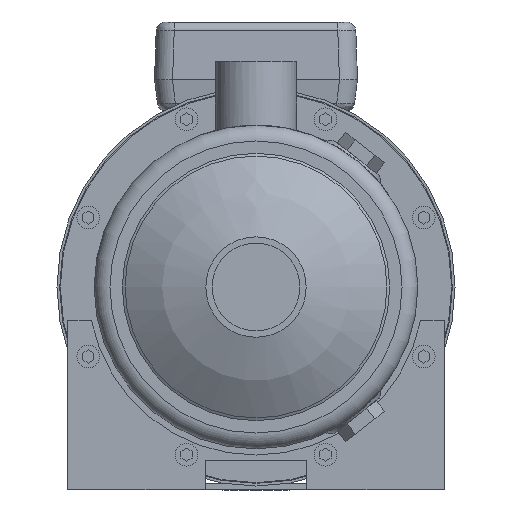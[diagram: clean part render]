
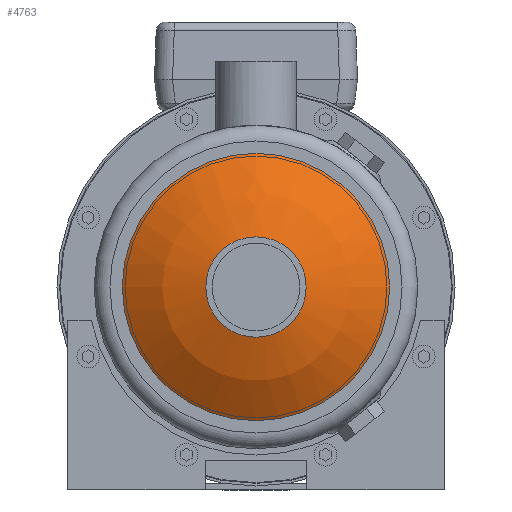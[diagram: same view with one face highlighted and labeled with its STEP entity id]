
A CAD part, left-side view. The second image highlights one B-rep face of the part: STEP entity #4763.
In plain terms, the highlighted spherical face has radius 100 mm.
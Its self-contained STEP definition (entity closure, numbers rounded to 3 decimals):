
#83=SPHERICAL_SURFACE('',#6416,100.);
#1088=ORIENTED_EDGE('',*,*,#2403,.T.);
#1089=ORIENTED_EDGE('',*,*,#2402,.F.);
#2402=EDGE_CURVE('',#3064,#3064,#3517,.T.);
#2403=EDGE_CURVE('',#3065,#3065,#3518,.T.);
#3064=VERTEX_POINT('',#8574);
#3065=VERTEX_POINT('',#8577);
#3517=CIRCLE('',#6415,22.25);
#3518=CIRCLE('',#6417,59.25);
#3735=EDGE_LOOP('',(#1088));
#3736=EDGE_LOOP('',(#1089));
#4167=FACE_BOUND('',#3735,.T.);
#4168=FACE_BOUND('',#3736,.T.);
#4763=ADVANCED_FACE('',(#4167,#4168),#83,.T.);
#6415=AXIS2_PLACEMENT_3D('',#8573,#7008,#7009);
#6416=AXIS2_PLACEMENT_3D('',#8575,#7010,#7011);
#6417=AXIS2_PLACEMENT_3D('',#8576,#7012,#7013);
#7008=DIRECTION('',(-1.,0.,0.));
#7009=DIRECTION('',(0.,0.,1.));
#7010=DIRECTION('',(-1.,0.,0.));
#7011=DIRECTION('',(0.,0.,1.));
#7012=DIRECTION('',(-1.,0.,0.));
#7013=DIRECTION('',(0.,0.,1.));
#8573=CARTESIAN_POINT('',(-67.293,0.,0.));
#8574=CARTESIAN_POINT('',(-67.293,0.,22.25));
#8575=CARTESIAN_POINT('',(30.2,0.,0.));
#8576=CARTESIAN_POINT('',(-50.357,0.,0.));
#8577=CARTESIAN_POINT('',(-50.357,0.,59.25));
